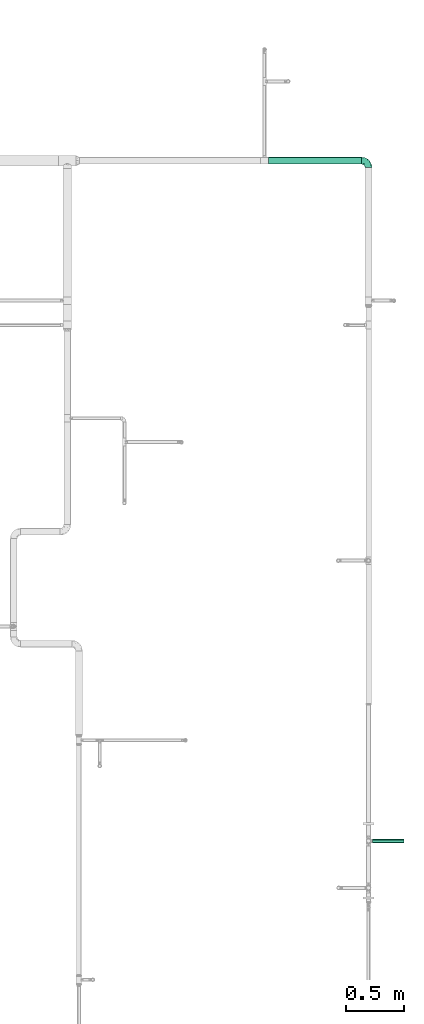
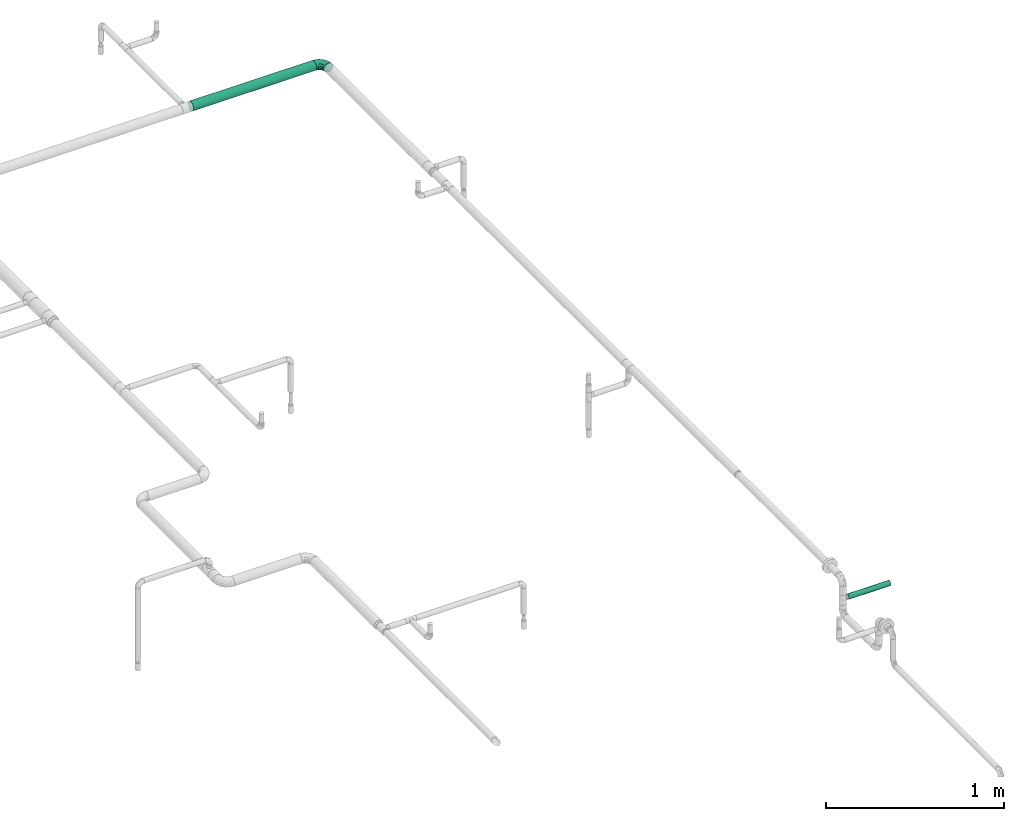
# One storey, part 9 of 43: 2 flow segments, 1 flow fitting.
"""IFC2X3 building model written with IfcOpenShell, lengths in millimetres."""

from ifc_helpers import new_model, entity, si_unit, converted_unit, derived_unit, direction, frame, origin_with_axes, origin_2d_with_axis, place, context, subcontext, project, spatial, hollow_circle, extrude, open_shell, surface_model, source, transform, mapped, type_object, element, save


model = new_model("IFC2X3")

# Units and contexts
model_context = context("Model", 3, precision=0.01, world=frame((0.0, 4.29681676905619e-09, 0.0)), true_north=direction((4.01073788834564e-13, 1.0)))
plan_context = context("Plan", 3, precision=0.01, world=frame((0.0, 4.29681676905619e-09, 0.0)), true_north=direction((4.01073788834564e-13, 1.0)))
body_context = subcontext(model_context, "Body", "Model", "MODEL_VIEW")
ifc_project = project(units=[converted_unit("PLANEANGLEUNIT", "DEGREE", entity("IfcPositiveLengthMeasure", 0.0174532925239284), si_unit("PLANEANGLEUNIT", "RADIAN"), dimensions=[0, 0, 0, 0, 0, 0, 0]), si_unit("AREAUNIT", "SQUARE_METRE"), si_unit("LENGTHUNIT", "METRE", prefix="MILLI"), si_unit("MASSUNIT", "GRAM", prefix="KILO"), si_unit("POWERUNIT", "WATT"), si_unit("PRESSUREUNIT", "PASCAL"), si_unit("FORCEUNIT", "NEWTON", prefix="KILO"), si_unit("ELECTRICVOLTAGEUNIT", "VOLT"), si_unit("ELECTRICCURRENTUNIT", "AMPERE"), si_unit("THERMODYNAMICTEMPERATUREUNIT", "DEGREE_CELSIUS"), si_unit("TIMEUNIT", "SECOND"), si_unit("VOLUMEUNIT", "CUBIC_METRE"), derived_unit("LINEARVELOCITYUNIT", [(si_unit("LENGTHUNIT", "METRE"), 1), (si_unit("TIMEUNIT", "SECOND"), -1)]), derived_unit("VOLUMETRICFLOWRATEUNIT", [(si_unit("VOLUMEUNIT", "CUBIC_METRE"), 1), (si_unit("TIMEUNIT", "SECOND"), -1)]), derived_unit("THERMALTRANSMITTANCEUNIT", [(si_unit("POWERUNIT", "WATT"), 1), (si_unit("THERMODYNAMICTEMPERATUREUNIT", "KELVIN"), -1), (si_unit("AREAUNIT", "SQUARE_METRE"), -1)]), derived_unit("SOUNDPRESSUREUNIT", [(si_unit("PRESSUREUNIT", "PASCAL"), 1)])], contexts=[model_context, plan_context])

# Site, building, storey
site_placement = place(None, frame((0.0, -4.29681676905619e-09, 0.0), z_axis=(0.0, 0.0, 1.0), x_axis=(1.0, 0.0, 0.0)))
site = spatial("IfcSite", under=ifc_project, at=site_placement, CompositionType="ELEMENT")
building_placement = place(site_placement, frame((0.0, 4.29681676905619e-09, 0.0), z_axis=(0.0, 0.0, 1.0), x_axis=(1.0, 0.0, 0.0)))
building = spatial("IfcBuilding", under=site, at=building_placement, Name="mc-building", CompositionType="ELEMENT")
storey_placement = place(building_placement, frame((0.0, 0.0, 210900.0), z_axis=(0.0, 0.0, 1.0), x_axis=(1.0, 0.0, 0.0)))
storey = spatial("IfcBuildingStorey", under=building, at=storey_placement, Name="Nivå F", CompositionType="ELEMENT", Elevation=210900.0)

# Flow fitting
pipe_fitting_type = type_object("IfcPipeFittingType", Name="magi_pipe_fe_elbow_short_001", PredefinedType="BEND")
shared_shape_1 = source(origin_with_axes(), body_context, "Body", "SurfaceModel", [
    surface_model("IfcShellBasedSurfaceModel", [(-60.4, 15.1, -26.15397), (-60.4, 7.81634, -29.17096), (-60.4, 0.0, -30.2), (-60.4, -21.35462, -21.35462), (-60.4, 26.15397, -15.1), (-60.4, 21.35462, -21.35462), (-60.4, 29.17096, -7.81634), (-60.4, -15.1, -26.15397), (-60.4, -7.81634, -29.17096), (-60.4, -26.15397, -15.1), (-60.4, -29.17096, -7.81634), (-60.4, -30.2, 0.0), (-60.4, -29.17096, 7.81634), (-60.4, 29.17096, 7.81634), (-60.4, -21.35462, 21.35462), (-60.4, 26.15397, 15.1), (-60.4, 21.35462, 21.35462), (-60.4, 7.81634, 29.17096), (-60.4, 15.1, 26.15397), (-60.4, -26.15397, 15.1), (-60.4, -7.81634, 29.17096), (-60.4, 0.0, 30.2), (-60.4, -15.1, 26.15397), (-60.4, 30.2, 0.0), (0.0, 60.4, -30.2), (-7.81634, 60.4, -29.17096), (-15.1, 60.4, -26.15397), (-26.15397, 60.4, -15.1), (-29.17096, 60.4, -7.81634), (-21.35462, 60.4, -21.35462), (29.17096, 60.4, -7.81634), (7.81634, 60.4, -29.17096), (21.35462, 60.4, -21.35462), (15.1, 60.4, -26.15397), (26.15397, 60.4, -15.1), (29.17096, 60.4, 7.81634), (30.2, 60.4, 0.0), (-29.17096, 60.4, 7.81634), (21.35462, 60.4, 21.35462), (-21.35462, 60.4, 21.35462), (-26.15397, 60.4, 15.1), (-15.1, 60.4, 26.15397), (-7.81634, 60.4, 29.17096), (26.15397, 60.4, 15.1), (15.1, 60.4, 26.15397), (0.0, 60.4, 30.2), (7.81634, 60.4, 29.17096), (-30.2, 60.4, 0.0), (-40.79975, -26.48639, 9.49143), (-44.2927, -23.46036, 16.95222), (-32.40306, -25.76572, 0.0), (-45.54716, -27.84754, 0.0), (-7.73382, -10.42985, 11.64553), (-2.102, -8.06735, 6.35117), (1.74449, -1.74448, 12.51332), (-46.13593, -4.00068, 29.68351), (-42.2898, 4.62925, 30.14853), (10.31662, 7.37496, 11.34434), (18.44156, 24.57514, 15.02148), (7.07276, 10.95732, 19.27498), (-30.06693, -0.27102, 29.27145), (-44.17726, -11.39441, 27.16031), (-23.4551, -7.13383, 25.24246), (-38.74025, -17.25266, 22.43475), (-27.059, -23.14697, 6.2131), (-19.77486, -19.33133, 0.0), (-10.95732, -7.07276, 19.27498), (-5.39458, 5.39458, 24.69106), (-29.52069, 48.20084, 13.12597), (-25.22813, 47.01796, 19.8404), (-11.27311, 52.093, 28.2877), (-4.13904, 45.17494, 30.12582), (-46.55352, 11.8443, 28.52822), (-7.88305, 20.22717, 29.65331), (-15.00576, 5.54025, 28.20072), (-3.0852, 16.31623, 27.75343), (-52.24998, 18.2886, 24.60768), (-10.49591, 29.69865, 30.14582), (-22.36958, 22.36958, 29.4662), (-17.98262, 13.19715, 30.04443), (-47.74519, 32.16745, 6.63994), (-48.21585, 29.51581, 13.12396), (-37.49729, 37.49729, 11.28901), (-47.20967, 25.1754, 19.81929), (17.25266, 38.74025, 22.43475), (-31.32046, 40.03273, 17.09289), (11.39441, 44.17725, 27.16031), (23.46036, 44.2927, 16.95222), (26.48639, 40.79975, 9.49143), (-7.14666, -12.89694, 0.0), (-14.66463, -16.61192, 7.82462), (4.00068, 46.13593, 29.68351), (-33.18602, 12.93608, 29.65955), (-29.63414, 7.40029, 30.18711), (19.33133, 19.77486, 0.0), (23.14697, 27.059, 6.2131), (16.61192, 14.66463, 7.82462), (27.84754, 45.54716, 0.0), (-32.10611, 20.49149, 27.93323), (-24.57514, -18.44156, 15.02148), (-21.89487, 39.03366, 25.38224), (-18.45005, 50.6405, 24.73297), (-31.78933, 48.71949, 6.47886), (-37.84917, 39.61073, 5.315), (13.91334, 24.32737, 20.46816), (7.13383, 23.4551, 25.24246), (-34.24603, 45.3, 0.0), (-27.95749, 31.89166, 24.81537), (-41.58677, 20.50028, 25.43151), (-0.46157, 0.46157, 17.84239), (-17.23338, 31.26213, 29.03145), (-24.05994, 29.23812, 27.47858), (-13.06094, 40.92174, 28.76128), (-31.83392, 33.72702, 21.39203), (-38.78737, 32.45032, 16.84022), (0.27102, 30.06693, 29.27145), (-24.21469, -13.23741, 21.05734), (8.23548, 2.19333, 6.02161), (25.76572, 32.40306, 0.0), (12.89694, 7.14666, 0.0), (-45.3, 34.24603, 0.0), (2.87514, -2.87514, 0.0), (-44.53432, 26.00869, -20.11577), (-48.18822, 29.5248, -13.12766), (-24.67192, -7.62159, -25.33714), (-26.22398, -0.37671, -28.72374), (-12.13397, -0.50536, -24.74577), (-47.80891, 3.81859, -30.10171), (-44.05719, -27.03585, -9.84546), (-37.94552, -22.39569, -16.35738), (-28.81663, -22.64668, -10.132), (-43.93799, 12.32789, -28.63778), (-33.27, 7.1392, -30.19348), (-26.0087, 44.53432, -20.11577), (-48.89164, 31.68872, -6.60822), (-18.95522, 47.41145, -24.9828), (-12.32789, 43.93799, -28.63778), (-38.42778, 38.42778, -7.21049), (18.04263, 43.69152, -22.80146), (10.42233, 38.24532, -26.85918), (11.90576, 51.00473, -27.48545), (-5.88381, -10.62327, -7.95335), (-5.9694, -7.83116, -13.76182), (3.24899, -2.56331, -7.96861), (-17.62229, 16.32998, -30.18286), (-28.62959, 17.86952, -29.30113), (-47.41145, 18.95522, -24.98279), (-50.84455, -24.04089, -17.54629), (-29.38053, 34.30665, -22.74674), (-27.91099, 27.91099, -26.51666), (-36.91219, 25.51094, -23.99233), (2.63361, -0.55507, -12.94367), (-43.69152, -18.04263, -22.80146), (22.39569, 37.94552, -16.35738), (27.03585, 44.05719, -9.84546), (22.64668, 28.81663, -10.132), (-51.00473, -11.90576, -27.48545), (3.80785, 44.49426, -29.64782), (-19.0921, -14.69952, -16.47487), (-22.5489, -12.31934, -21.1263), (-10.94772, -7.46239, -18.88204), (-32.95885, -13.78948, -23.71249), (-38.24532, -10.42233, -26.85918), (-44.49427, -3.80785, -29.64782), (-22.6301, 37.15314, -25.58239), (-31.68872, 48.89164, -6.60822), (-3.8186, 47.80891, -30.10171), (-10.66133, 10.66133, -28.51691), (0.37671, 26.22398, -28.72374), (1.27136, 14.18619, -25.18541), (-29.5248, 48.18821, -13.12766), (-36.27113, 36.27113, -14.88553), (24.04089, 50.84455, -17.54629), (17.50188, 24.2636, -16.21902), (9.73525, 11.44907, -16.75087), (12.31934, 22.5489, -21.1263), (6.24176, 25.78208, -26.38266), (-7.1392, 33.27, -30.19348), (-36.7166, 19.4356, -27.21946), (-18.00754, 29.38864, -29.15505), (-0.28629, 0.28629, -17.49884), (-13.98848, -16.88492, -5.19509), (15.48569, 15.00432, -11.24742), (16.88492, 13.98848, -5.19509), (3.55782, 9.20508, -21.18402), (-15.00432, -15.48569, -11.24742)], [open_shell([[[0, 1, 2]], [[0, 2, 3]], [[4, 0, 3]], [[5, 0, 4]], [[6, 4, 3]], [[7, 3, 8]], [[3, 2, 8]], [[9, 10, 3]], [[3, 10, 6]], [[11, 12, 10]], [[13, 6, 10]], [[13, 10, 14]], [[15, 13, 16]], [[17, 18, 16]], [[13, 17, 16]], [[17, 13, 14]], [[19, 14, 12]], [[12, 14, 10]], [[20, 21, 22]], [[17, 14, 22]], [[17, 22, 21]], [[13, 23, 6]], [[24, 25, 26]], [[24, 26, 27]], [[27, 28, 24]], [[27, 26, 29]], [[24, 28, 30]], [[31, 32, 33]], [[31, 24, 32]], [[32, 30, 34]], [[24, 30, 32]], [[30, 35, 36]], [[30, 28, 37]], [[38, 30, 37]], [[39, 37, 40]], [[39, 41, 42]], [[39, 42, 37]], [[38, 37, 42]], [[35, 38, 43]], [[30, 38, 35]], [[44, 45, 46]], [[44, 38, 42]], [[45, 44, 42]], [[28, 47, 37]], [[48, 49, 19]], [[50, 48, 51]], [[52, 53, 54]], [[12, 48, 19]], [[12, 51, 48]], [[21, 55, 56]], [[19, 49, 14]], [[57, 58, 59]], [[60, 61, 62]], [[63, 22, 14]], [[63, 61, 22]], [[64, 50, 65]], [[62, 66, 67]], [[40, 68, 69]], [[42, 70, 71]], [[17, 72, 18]], [[73, 74, 75]], [[18, 76, 16]], [[20, 55, 21]], [[77, 78, 79]], [[80, 81, 82]], [[15, 83, 81]], [[84, 38, 44]], [[23, 13, 80]], [[13, 15, 81]], [[68, 85, 69]], [[83, 15, 16]], [[21, 56, 17]], [[44, 86, 84]], [[16, 76, 83]], [[87, 58, 88]], [[40, 37, 68]], [[89, 90, 65]], [[45, 91, 46]], [[65, 90, 64]], [[45, 42, 71]], [[92, 93, 79]], [[88, 35, 43]], [[43, 38, 87]], [[87, 88, 43]], [[94, 95, 96]], [[88, 97, 35]], [[98, 72, 92]], [[49, 99, 63]], [[69, 100, 101]], [[82, 102, 103]], [[104, 105, 59]], [[106, 102, 47]], [[98, 107, 108]], [[102, 82, 68]], [[86, 44, 46]], [[69, 39, 40]], [[109, 54, 57]], [[110, 100, 111]], [[22, 61, 20]], [[101, 41, 39]], [[70, 42, 41]], [[112, 77, 71]], [[84, 86, 105]], [[96, 95, 58]], [[100, 69, 113]], [[72, 17, 56]], [[108, 113, 83]], [[81, 114, 82]], [[112, 110, 77]], [[91, 71, 115]], [[62, 61, 63]], [[55, 61, 60]], [[116, 99, 66]], [[74, 62, 67]], [[91, 86, 46]], [[105, 86, 115]], [[75, 105, 115]], [[109, 67, 66]], [[59, 105, 67]], [[48, 64, 99]], [[99, 49, 48]], [[63, 14, 49]], [[38, 84, 87]], [[58, 87, 84]], [[92, 72, 56]], [[76, 72, 108]], [[102, 68, 37]], [[82, 114, 85]], [[98, 111, 107]], [[112, 70, 101]], [[114, 83, 113]], [[82, 103, 80]], [[92, 79, 78]], [[115, 71, 77]], [[74, 79, 60]], [[77, 79, 73]], [[71, 91, 45]], [[86, 91, 115]], [[61, 55, 20]], [[56, 55, 60]], [[57, 54, 117]], [[104, 59, 58]], [[116, 66, 62]], [[52, 99, 90]], [[12, 11, 51]], [[97, 88, 118]], [[97, 36, 35]], [[53, 90, 89]], [[90, 53, 52]], [[94, 96, 119]], [[88, 95, 118]], [[117, 54, 53]], [[92, 56, 93]], [[98, 92, 78]], [[111, 98, 78]], [[72, 98, 108]], [[110, 111, 78]], [[107, 111, 100]], [[47, 102, 37]], [[102, 106, 103]], [[106, 120, 103]], [[103, 120, 80]], [[23, 80, 120]], [[13, 81, 80]], [[56, 60, 93]], [[60, 79, 93]], [[117, 121, 119]], [[121, 117, 53]], [[53, 89, 121]], [[119, 96, 117]], [[117, 96, 57]], [[77, 110, 78]], [[100, 110, 112]], [[83, 114, 81]], [[85, 114, 113]], [[69, 85, 113]], [[82, 85, 68]], [[109, 52, 54]], [[99, 52, 66]], [[69, 101, 39]], [[112, 101, 100]], [[100, 113, 107]], [[108, 107, 113]], [[62, 74, 60]], [[75, 74, 67]], [[105, 75, 67]], [[73, 75, 115]], [[77, 73, 115]], [[74, 73, 79]], [[99, 64, 90]], [[50, 64, 48]], [[118, 95, 94]], [[58, 95, 88]], [[58, 57, 96]], [[109, 57, 59]], [[72, 76, 18]], [[83, 76, 108]], [[101, 70, 41]], [[71, 70, 112]], [[58, 84, 104]], [[105, 104, 84]], [[67, 109, 59]], [[52, 109, 66]], [[62, 63, 116]], [[99, 116, 63]], [[122, 4, 123]], [[124, 125, 126]], [[2, 1, 127]], [[128, 129, 130]], [[127, 131, 132]], [[27, 29, 133]], [[120, 134, 23]], [[135, 26, 136]], [[123, 134, 137]], [[138, 139, 140]], [[122, 5, 4]], [[141, 142, 143]], [[144, 132, 145]], [[131, 0, 146]], [[128, 9, 147]], [[148, 149, 150]], [[128, 51, 10]], [[142, 151, 143]], [[152, 3, 7]], [[153, 154, 155]], [[156, 152, 7]], [[31, 157, 24]], [[158, 159, 160]], [[147, 9, 3]], [[129, 152, 161]], [[156, 7, 8]], [[162, 163, 125]], [[154, 34, 30]], [[120, 106, 137]], [[149, 148, 164]], [[47, 28, 165]], [[163, 8, 2]], [[4, 6, 123]], [[25, 166, 136]], [[167, 168, 169]], [[170, 133, 171]], [[25, 24, 166]], [[33, 32, 138]], [[157, 31, 140]], [[28, 27, 170]], [[32, 34, 172]], [[26, 135, 29]], [[132, 131, 145]], [[31, 33, 140]], [[173, 174, 175]], [[169, 168, 176]], [[25, 136, 26]], [[175, 138, 173]], [[168, 177, 157]], [[163, 162, 156]], [[153, 172, 154]], [[9, 128, 10]], [[154, 97, 118]], [[131, 178, 145]], [[0, 5, 146]], [[175, 139, 138]], [[155, 118, 94]], [[131, 1, 0]], [[146, 178, 131]], [[170, 137, 165]], [[149, 179, 145]], [[171, 133, 148]], [[160, 180, 142]], [[65, 181, 89]], [[170, 165, 28]], [[137, 171, 123]], [[172, 138, 32]], [[138, 153, 173]], [[168, 157, 139]], [[166, 157, 177]], [[176, 175, 169]], [[168, 167, 144]], [[154, 30, 97]], [[155, 182, 173]], [[162, 124, 161]], [[147, 152, 129]], [[127, 163, 2]], [[132, 144, 125]], [[132, 125, 163]], [[125, 167, 126]], [[129, 158, 130]], [[30, 36, 97]], [[143, 182, 183]], [[169, 126, 167]], [[5, 122, 146]], [[178, 150, 149]], [[136, 179, 164]], [[133, 29, 135]], [[123, 6, 134]], [[122, 123, 171]], [[133, 170, 27]], [[137, 170, 171]], [[184, 175, 174]], [[180, 160, 126]], [[126, 169, 184]], [[126, 159, 124]], [[51, 128, 50]], [[51, 11, 10]], [[131, 127, 1]], [[163, 127, 132]], [[157, 166, 24]], [[136, 166, 177]], [[164, 179, 149]], [[144, 167, 125]], [[179, 144, 145]], [[168, 144, 177]], [[136, 177, 179]], [[144, 179, 177]], [[141, 121, 89]], [[89, 181, 141]], [[154, 118, 155]], [[183, 155, 94]], [[143, 183, 119]], [[119, 183, 94]], [[155, 183, 182]], [[181, 130, 185]], [[50, 128, 130]], [[130, 181, 65]], [[50, 130, 65]], [[141, 181, 185]], [[142, 141, 185]], [[143, 121, 141]], [[158, 160, 142]], [[142, 180, 151]], [[158, 142, 185]], [[126, 160, 159]], [[130, 158, 185]], [[129, 159, 158]], [[23, 134, 6]], [[120, 137, 134]], [[137, 106, 165]], [[47, 165, 106]], [[174, 151, 180]], [[182, 143, 151]], [[150, 146, 122]], [[149, 145, 178]], [[146, 150, 178]], [[122, 171, 148]], [[148, 150, 122]], [[164, 133, 135]], [[133, 164, 148]], [[164, 135, 136]], [[138, 140, 33]], [[157, 140, 139]], [[154, 172, 34]], [[138, 172, 153]], [[163, 156, 8]], [[152, 156, 162]], [[152, 147, 3]], [[128, 147, 129]], [[155, 173, 153]], [[174, 173, 182]], [[151, 174, 182]], [[174, 180, 184]], [[126, 184, 180]], [[175, 184, 169]], [[168, 139, 176]], [[175, 176, 139]], [[161, 124, 159]], [[125, 124, 162]], [[129, 161, 159]], [[162, 161, 152]], [[143, 119, 121]]])]),
])
flow_fitting_placement = place(storey_placement, frame((610366.6122, 697236.30413, 2660.0), z_axis=(0.0, 0.0, 1.0), x_axis=(0.0, 1.0, 0.0)))
element("IfcFlowFitting", 1, at=flow_fitting_placement, inside=storey, type_object=pipe_fitting_type, Name="magi_pipe_fe_elbow_short_001", context=body_context, shape_type="MappedRepresentation", body=[
    mapped(shared_shape_1, transform((0.0, 0.0, 0.0), scale=1.0)),
])

# Flow segments
pipe_segment_type = type_object("IfcPipeSegmentType", Name="Stålrør normaltykke", PredefinedType="RIGIDSEGMENT")
shared_shape_2 = source(origin_with_axes(), body_context, "Body", "SweptSolid", [
    extrude(hollow_circle(Radius=16.9, WallThickness=2.0, at=origin_2d_with_axis()), frame((0.0, 0.0, 0.0), z_axis=(1.0, 0.0, 0.0), x_axis=(0.0, 1.0, 0.0)), (0.0, 0.0, 1.0), 272.5),
])
flow_segment_1_placement = place(storey_placement, frame((610670.95803, 691395.18624, 2522.5), z_axis=(0.0, 0.0, 1.0), x_axis=(-1.0, 0.0, 0.0)))
element("IfcFlowSegment", 2, at=flow_segment_1_placement, inside=storey, type_object=pipe_segment_type, Name="Stålrør normaltykke", context=body_context, shape_type="MappedRepresentation", body=[
    mapped(shared_shape_2, transform((0.0, 0.0, 0.0), scale=1.0)),
])
shared_shape_3 = source(origin_with_axes(), body_context, "Body", "SweptSolid", [
    extrude(hollow_circle(Radius=30.1, WallThickness=2.0, at=origin_2d_with_axis()), frame((0.0, 0.0, 0.0), z_axis=(1.0, 0.0, 0.0), x_axis=(0.0, 1.0, 0.0)), (0.0, 0.0, 1.0), 798.7),
])
flow_segment_2_placement = place(storey_placement, frame((609507.5578, 697236.30413, 2660.0), z_axis=(0.0, 0.0, 1.0), x_axis=(1.0, 0.0, 0.0)))
element("IfcFlowSegment", 3, at=flow_segment_2_placement, inside=storey, type_object=pipe_segment_type, Name="Stålrør normaltykke", context=body_context, shape_type="MappedRepresentation", body=[
    mapped(shared_shape_3, transform((0.0, 0.0, 0.0), scale=1.0)),
])

save(model, "model.ifc")
